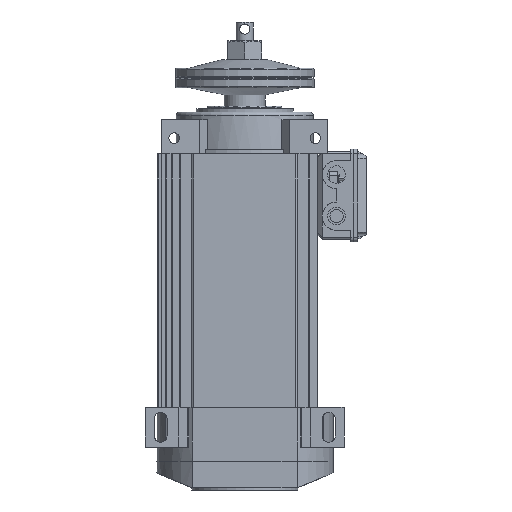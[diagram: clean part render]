
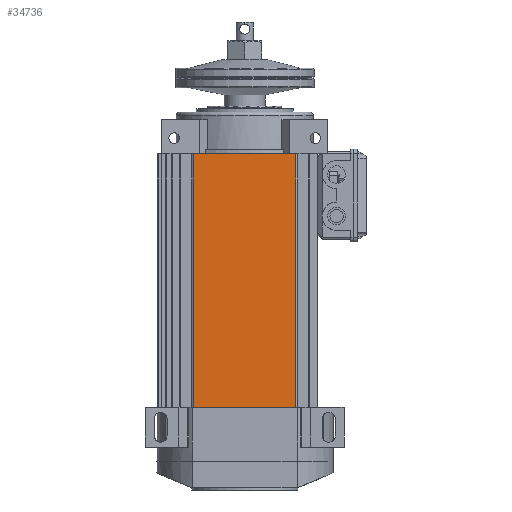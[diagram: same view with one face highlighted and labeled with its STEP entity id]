
A CAD part, front view. The second image highlights one B-rep face of the part: STEP entity #34736.
In plain terms, the highlighted planar face has unit normal (0, -1, 0).
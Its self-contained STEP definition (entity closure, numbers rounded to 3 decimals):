
#13015 = FACE_OUTER_BOUND ( 'NONE', #40111, .T. ) ;
#13802 = AXIS2_PLACEMENT_3D ( 'NONE', #17827, #17832, #17833 ) ;
#17825 = PLANE ( 'NONE',  #13802 ) ;
#17827 = CARTESIAN_POINT ( 'NONE',  ( -99., -80.5, 0. ) ) ;
#17832 = DIRECTION ( 'NONE',  ( 0., -1., 0. ) ) ;
#17833 = DIRECTION ( 'NONE',  ( 0., 0., -1. ) ) ;
#21397 = LINE ( 'NONE', #24792, #21399 ) ;
#21399 = VECTOR ( 'NONE', #24788, 1000. ) ;
#21451 = LINE ( 'NONE', #24875, #21456 ) ;
#21456 = VECTOR ( 'NONE', #24870, 1000. ) ;
#24788 = DIRECTION ( 'NONE',  ( 1., 0., 0. ) ) ;
#24792 = CARTESIAN_POINT ( 'NONE',  ( -99., -80.5, 287.25 ) ) ;
#24870 = DIRECTION ( 'NONE',  ( 1., 0., 0. ) ) ;
#24875 = CARTESIAN_POINT ( 'NONE',  ( -99., -80.5, 0. ) ) ;
#25111 = CARTESIAN_POINT ( 'NONE',  ( 57.626, -80.5, 0. ) ) ;
#25112 = DIRECTION ( 'NONE',  ( 0., 0., 1. ) ) ;
#25113 = CARTESIAN_POINT ( 'NONE',  ( -57.626, -80.5, 0. ) ) ;
#25114 = DIRECTION ( 'NONE',  ( 0., 0., -1. ) ) ;
#26279 = LINE ( 'NONE', #25111, #26282 ) ;
#26281 = LINE ( 'NONE', #25113, #26284 ) ;
#26282 = VECTOR ( 'NONE', #25112, 1000. ) ;
#26284 = VECTOR ( 'NONE', #25114, 1000. ) ;
#31504 = CARTESIAN_POINT ( 'NONE',  ( -57.626, -80.5, 287.25 ) ) ;
#31505 = CARTESIAN_POINT ( 'NONE',  ( 57.626, -80.5, 287.25 ) ) ;
#31556 = CARTESIAN_POINT ( 'NONE',  ( 57.626, -80.5, 0. ) ) ;
#31558 = CARTESIAN_POINT ( 'NONE',  ( -57.626, -80.5, 0. ) ) ;
#34736 = ADVANCED_FACE ( 'NONE', ( #13015 ), #17825, .T. ) ;
#37852 = EDGE_CURVE ( 'NONE', #43152, #43154, #21397, .T. ) ;
#37887 = EDGE_CURVE ( 'NONE', #43193, #43192, #21451, .T. ) ;
#37987 = EDGE_CURVE ( 'NONE', #43192, #43154, #26279, .T. ) ;
#37988 = EDGE_CURVE ( 'NONE', #43152, #43193, #26281, .T. ) ;
#40111 = EDGE_LOOP ( 'NONE', ( #40700, #40701, #40702, #40703 ) ) ;
#40700 = ORIENTED_EDGE ( 'NONE', *, *, #37887, .T. ) ;
#40701 = ORIENTED_EDGE ( 'NONE', *, *, #37987, .T. ) ;
#40702 = ORIENTED_EDGE ( 'NONE', *, *, #37852, .F. ) ;
#40703 = ORIENTED_EDGE ( 'NONE', *, *, #37988, .T. ) ;
#43152 = VERTEX_POINT ( 'NONE', #31504 ) ;
#43154 = VERTEX_POINT ( 'NONE', #31505 ) ;
#43192 = VERTEX_POINT ( 'NONE', #31556 ) ;
#43193 = VERTEX_POINT ( 'NONE', #31558 ) ;
